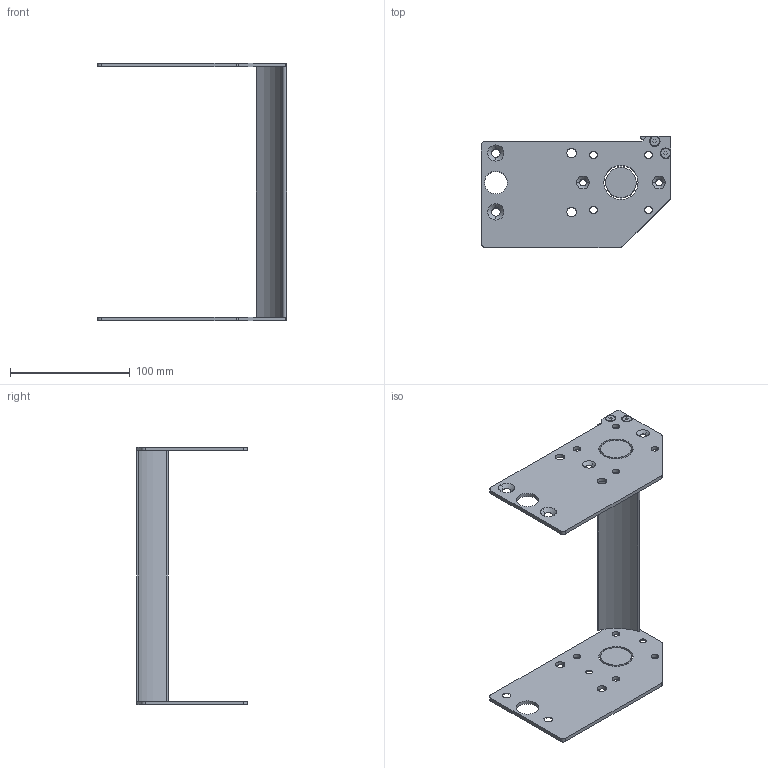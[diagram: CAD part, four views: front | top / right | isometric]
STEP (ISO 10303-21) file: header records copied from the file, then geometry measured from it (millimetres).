
FILE_DESCRIPTION((''),'2;1');
FILE_NAME('27M3300-04_ASM','2017-09-20T',('james.horst'),(''),'PRO/ENGINEER BY PARAMETRIC TECHNOLOGY CORPORATION, 2012420','PRO/ENGINEER BY PARAMETRIC TECHNOLOGY CORPORATION, 2012420','');
FILE_SCHEMA(('CONFIG_CONTROL_DESIGN'));
Length unit declared in the file: inch
Products named in the file (6): 350540; 350541; 930410M; 27M3300-10_ASM_1_ASM; 350539-08; 27M3300-04_ASM
Assembly tree (8 placements, depth 3):
  27M3300-04_ASM
    27M3300-10_ASM_1_ASM
      350540
      350541
      930410M  x4
    350539-08
Bounding box: 157.96 x 92.74 x 215.54 mm (x, y, z)
Volume: 137560 mm3; surface area: 80403.5 mm2
Topology: 7 solids, 11 shells, 206 faces, 556 edges, 368 vertices
Faces by surface type: cylinder 96, plane 70, cone 40
Entity records: 5536 total; most frequent: DIRECTION 1020, CARTESIAN_POINT 945, ORIENTED_EDGE 868, EDGE_CURVE 442, AXIS2_PLACEMENT_3D 407, VERTEX_POINT 296, CIRCLE 230, EDGE_LOOP 220
